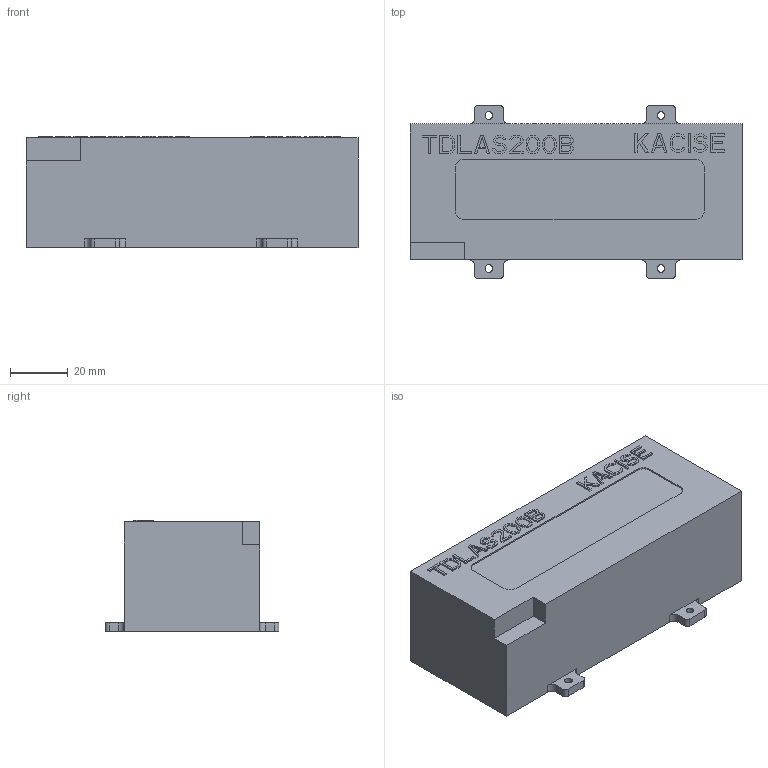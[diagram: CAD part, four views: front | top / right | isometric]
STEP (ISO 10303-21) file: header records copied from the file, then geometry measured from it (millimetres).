
FILE_DESCRIPTION((''),'2;1');
FILE_NAME('TDLAS200B','2025-12-31T10:09:56',('28740194'),(''),'CREO PARAMETRIC BY PTC INC, 2024063','CREO PARAMETRIC BY PTC INC, 2024063','');
FILE_SCHEMA(('CONFIG_CONTROL_DESIGN'));
Length unit declared in the file: millimetre
Products named in the file (1): TDLAS200B
Bounding box: 115 x 60.15 x 38.5 mm (x, y, z)
Volume: 204402.6 mm3; surface area: 24168 mm2
Topology: 1 solids, 1 shells, 473 faces, 1344 edges, 896 vertices
Faces by surface type: plane 445, cylinder 28
Entity records: 15148 total; most frequent: CARTESIAN_POINT 2713, ORIENTED_EDGE 2688, DIRECTION 2346, EDGE_CURVE 1344, VECTOR 1288, LINE 1288, VERTEX_POINT 896, AXIS2_PLACEMENT_3D 529
